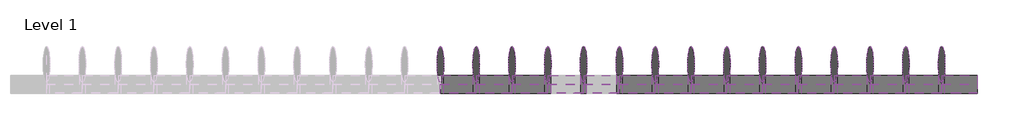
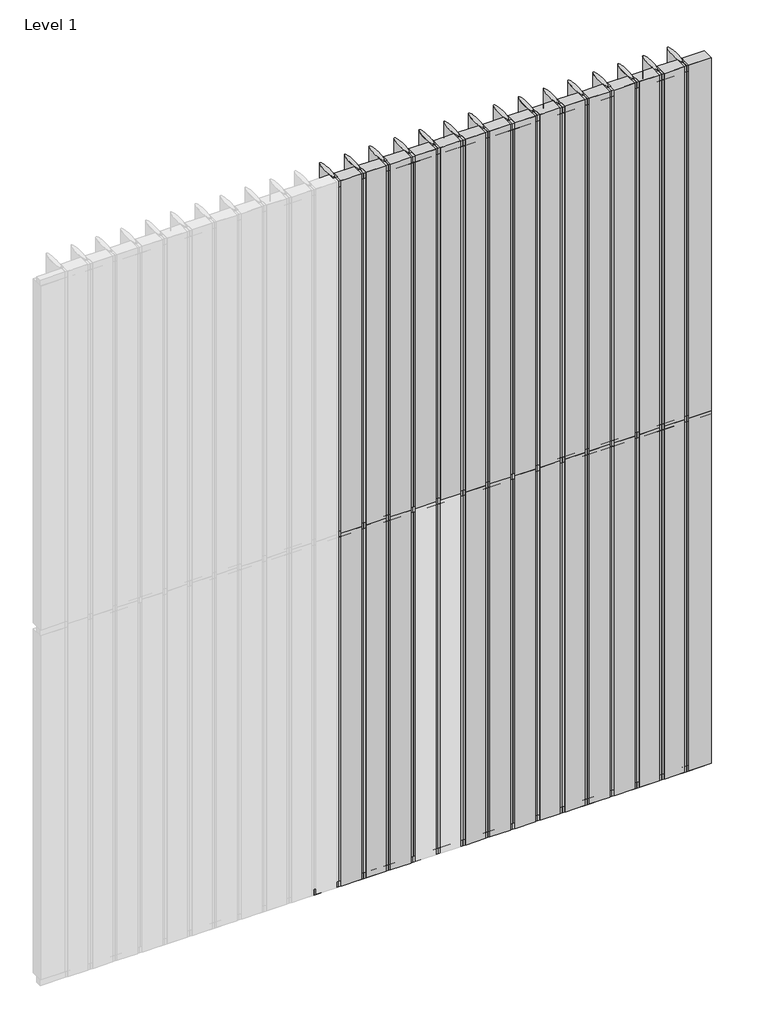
# One storey, part 2 of 2: 76 members, 58 plates.
"""IFC4 building model written with IfcOpenShell, lengths in millimetres."""

from ifc_helpers import new_model, si_unit, origin, place, context, project, spatial, transform, mapped, element, save
from components import rectangular_mullion_139a1767, rectangular_mullion_614df7cf, rectangular_mullion_a06afc58, rectangular_mullion_7d91d70c, empty_system_panel_empty_c6c0e791, empty_system_panel_empty_de494967, empty_system_panel_empty_763ef950

model = new_model("IFC4")

# Units and contexts
model_context = context("Model", 3, world=origin())
ifc_project = project(units=[si_unit("LENGTHUNIT", "METRE", prefix="MILLI")], contexts=[model_context])

# Site, building, storey
site = spatial("IfcSite", under=ifc_project)
building = spatial("IfcBuilding", under=site)
storey = spatial("IfcBuildingStorey", under=building, Name="Level 1", Elevation=0.0)

# Members
placement = place(None, origin())
rectangular_mullion_shape = rectangular_mullion_139a1767(model_context)
element("IfcMember", 1, ObjectType="Rectangular Mullion : RSen_21_CWM_blade - 200 ellips - 0°_gen_duco projects", at=placement, inside=storey, context=model_context, shape_type="MappedRepresentation", body=[
    mapped(rectangular_mullion_shape, transform((5800.0, 3000.0, 0.0), x_axis=(-1.0, 0.0, 0.0), y_axis=(0.0, 1.0, 0.0), z_axis=(0.0, 0.0, -1.0))),
])
element("IfcMember", 2, ObjectType="Rectangular Mullion : RSen_21_CWM_blade - 200 ellips - 0°_gen_duco projects", at=placement, inside=storey, context=model_context, shape_type="MappedRepresentation", body=[
    mapped(rectangular_mullion_shape, transform((5600.0, 3000.0, 0.0), x_axis=(-1.0, 0.0, 0.0), y_axis=(0.0, 1.0, 0.0), z_axis=(0.0, 0.0, -1.0))),
])
element("IfcMember", 3, ObjectType="Rectangular Mullion : RSen_21_CWM_blade - 200 ellips - 0°_gen_duco projects", at=placement, inside=storey, context=model_context, shape_type="MappedRepresentation", body=[
    mapped(rectangular_mullion_shape, transform((5400.0, 3000.0, 0.0), x_axis=(-1.0, 0.0, 0.0), y_axis=(0.0, 1.0, 0.0), z_axis=(0.0, 0.0, -1.0))),
])
element("IfcMember", 4, ObjectType="Rectangular Mullion : RSen_21_CWM_blade - 200 ellips - 0°_gen_duco projects", at=placement, inside=storey, context=model_context, shape_type="MappedRepresentation", body=[
    mapped(rectangular_mullion_shape, transform((5200.0, 3000.0, 0.0), x_axis=(-1.0, 0.0, 0.0), y_axis=(0.0, 1.0, 0.0), z_axis=(0.0, 0.0, -1.0))),
])
element("IfcMember", 5, ObjectType="Rectangular Mullion : RSen_21_CWM_blade - 200 ellips - 0°_gen_duco projects", at=placement, inside=storey, context=model_context, shape_type="MappedRepresentation", body=[
    mapped(rectangular_mullion_shape, transform((5000.0, 3000.0, 0.0), x_axis=(-1.0, 0.0, 0.0), y_axis=(0.0, 1.0, 0.0), z_axis=(0.0, 0.0, -1.0))),
])
element("IfcMember", 6, ObjectType="Rectangular Mullion : RSen_21_CWM_blade - 200 ellips - 0°_gen_duco projects", at=placement, inside=storey, context=model_context, shape_type="MappedRepresentation", body=[
    mapped(rectangular_mullion_shape, transform((4800.0, 3000.0, 0.0), x_axis=(-1.0, 0.0, 0.0), y_axis=(0.0, 1.0, 0.0), z_axis=(0.0, 0.0, -1.0))),
])
element("IfcMember", 7, ObjectType="Rectangular Mullion : RSen_21_CWM_blade - 200 ellips - 0°_gen_duco projects", at=placement, inside=storey, context=model_context, shape_type="MappedRepresentation", body=[
    mapped(rectangular_mullion_shape, transform((4600.0, 3000.0, 0.0), x_axis=(-1.0, 0.0, 0.0), y_axis=(0.0, 1.0, 0.0), z_axis=(0.0, 0.0, -1.0))),
])
element("IfcMember", 8, ObjectType="Rectangular Mullion : RSen_21_CWM_blade - 200 ellips - 0°_gen_duco projects", at=placement, inside=storey, context=model_context, shape_type="MappedRepresentation", body=[
    mapped(rectangular_mullion_shape, transform((4400.0, 3000.0, 0.0), x_axis=(-1.0, 0.0, 0.0), y_axis=(0.0, 1.0, 0.0), z_axis=(0.0, 0.0, -1.0))),
])
element("IfcMember", 9, ObjectType="Rectangular Mullion : RSen_21_CWM_blade - 200 ellips - 0°_gen_duco projects", at=placement, inside=storey, context=model_context, shape_type="MappedRepresentation", body=[
    mapped(rectangular_mullion_shape, transform((4200.0, 3000.0, 0.0), x_axis=(-1.0, 0.0, 0.0), y_axis=(0.0, 1.0, 0.0), z_axis=(0.0, 0.0, -1.0))),
])
element("IfcMember", 10, ObjectType="Rectangular Mullion : RSen_21_CWM_blade - 200 ellips - 0°_gen_duco projects", at=placement, inside=storey, context=model_context, shape_type="MappedRepresentation", body=[
    mapped(rectangular_mullion_shape, transform((4000.0, 3000.0, 0.0), x_axis=(-1.0, 0.0, 0.0), y_axis=(0.0, 1.0, 0.0), z_axis=(0.0, 0.0, -1.0))),
])
element("IfcMember", 11, ObjectType="Rectangular Mullion : RSen_21_CWM_blade - 200 ellips - 0°_gen_duco projects", at=placement, inside=storey, context=model_context, shape_type="MappedRepresentation", body=[
    mapped(rectangular_mullion_shape, transform((3800.0, 3000.0, 0.0), x_axis=(-1.0, 0.0, 0.0), y_axis=(0.0, 1.0, 0.0), z_axis=(0.0, 0.0, -1.0))),
])
element("IfcMember", 12, ObjectType="Rectangular Mullion : RSen_21_CWM_blade - 200 ellips - 0°_gen_duco projects", at=placement, inside=storey, context=model_context, shape_type="MappedRepresentation", body=[
    mapped(rectangular_mullion_shape, transform((3600.0, 3000.0, 0.0), x_axis=(-1.0, 0.0, 0.0), y_axis=(0.0, 1.0, 0.0), z_axis=(0.0, 0.0, -1.0))),
])
element("IfcMember", 13, ObjectType="Rectangular Mullion : RSen_21_CWM_blade - 200 ellips - 0°_gen_duco projects", at=placement, inside=storey, context=model_context, shape_type="MappedRepresentation", body=[
    mapped(rectangular_mullion_shape, transform((3400.0, 3000.0, 0.0), x_axis=(-1.0, 0.0, 0.0), y_axis=(0.0, 1.0, 0.0), z_axis=(0.0, 0.0, -1.0))),
])
element("IfcMember", 14, ObjectType="Rectangular Mullion : RSen_21_CWM_blade - 200 ellips - 0°_gen_duco projects", at=placement, inside=storey, context=model_context, shape_type="MappedRepresentation", body=[
    mapped(rectangular_mullion_shape, transform((3200.0, 3000.0, 0.0), x_axis=(-1.0, 0.0, 0.0), y_axis=(0.0, 1.0, 0.0), z_axis=(0.0, 0.0, -1.0))),
])
element("IfcMember", 15, ObjectType="Rectangular Mullion : RSen_21_CWM_blade - 200 ellips - 0°_gen_duco projects", at=placement, inside=storey, context=model_context, shape_type="MappedRepresentation", body=[
    mapped(rectangular_mullion_shape, transform((3000.0, 3000.0, 0.0), x_axis=(-1.0, 0.0, 0.0), y_axis=(0.0, 1.0, 0.0), z_axis=(0.0, 0.0, -1.0))),
])
element("IfcMember", 16, ObjectType="Rectangular Mullion : RSen_21_CWM_blade - 200 ellips - 0°_gen_duco projects", at=placement, inside=storey, context=model_context, shape_type="MappedRepresentation", body=[
    mapped(rectangular_mullion_shape, transform((5800.0, 3000.0, 3000.0), x_axis=(-1.0, 0.0, 0.0), y_axis=(0.0, 1.0, 0.0), z_axis=(0.0, 0.0, -1.0))),
])
element("IfcMember", 17, ObjectType="Rectangular Mullion : RSen_21_CWM_blade - 200 ellips - 0°_gen_duco projects", at=placement, inside=storey, context=model_context, shape_type="MappedRepresentation", body=[
    mapped(rectangular_mullion_shape, transform((5600.0, 3000.0, 3000.0), x_axis=(-1.0, 0.0, 0.0), y_axis=(0.0, 1.0, 0.0), z_axis=(0.0, 0.0, -1.0))),
])
element("IfcMember", 18, ObjectType="Rectangular Mullion : RSen_21_CWM_blade - 200 ellips - 0°_gen_duco projects", at=placement, inside=storey, context=model_context, shape_type="MappedRepresentation", body=[
    mapped(rectangular_mullion_shape, transform((5400.0, 3000.0, 3000.0), x_axis=(-1.0, 0.0, 0.0), y_axis=(0.0, 1.0, 0.0), z_axis=(0.0, 0.0, -1.0))),
])
element("IfcMember", 19, ObjectType="Rectangular Mullion : RSen_21_CWM_blade - 200 ellips - 0°_gen_duco projects", at=placement, inside=storey, context=model_context, shape_type="MappedRepresentation", body=[
    mapped(rectangular_mullion_shape, transform((5200.0, 3000.0, 3000.0), x_axis=(-1.0, 0.0, 0.0), y_axis=(0.0, 1.0, 0.0), z_axis=(0.0, 0.0, -1.0))),
])
element("IfcMember", 20, ObjectType="Rectangular Mullion : RSen_21_CWM_blade - 200 ellips - 0°_gen_duco projects", at=placement, inside=storey, context=model_context, shape_type="MappedRepresentation", body=[
    mapped(rectangular_mullion_shape, transform((5000.0, 3000.0, 3000.0), x_axis=(-1.0, 0.0, 0.0), y_axis=(0.0, 1.0, 0.0), z_axis=(0.0, 0.0, -1.0))),
])
element("IfcMember", 21, ObjectType="Rectangular Mullion : RSen_21_CWM_blade - 200 ellips - 0°_gen_duco projects", at=placement, inside=storey, context=model_context, shape_type="MappedRepresentation", body=[
    mapped(rectangular_mullion_shape, transform((4800.0, 3000.0, 3000.0), x_axis=(-1.0, 0.0, 0.0), y_axis=(0.0, 1.0, 0.0), z_axis=(0.0, 0.0, -1.0))),
])
element("IfcMember", 22, ObjectType="Rectangular Mullion : RSen_21_CWM_blade - 200 ellips - 0°_gen_duco projects", at=placement, inside=storey, context=model_context, shape_type="MappedRepresentation", body=[
    mapped(rectangular_mullion_shape, transform((4600.0, 3000.0, 3000.0), x_axis=(-1.0, 0.0, 0.0), y_axis=(0.0, 1.0, 0.0), z_axis=(0.0, 0.0, -1.0))),
])
element("IfcMember", 23, ObjectType="Rectangular Mullion : RSen_21_CWM_blade - 200 ellips - 0°_gen_duco projects", at=placement, inside=storey, context=model_context, shape_type="MappedRepresentation", body=[
    mapped(rectangular_mullion_shape, transform((4400.0, 3000.0, 3000.0), x_axis=(-1.0, 0.0, 0.0), y_axis=(0.0, 1.0, 0.0), z_axis=(0.0, 0.0, -1.0))),
])
element("IfcMember", 24, ObjectType="Rectangular Mullion : RSen_21_CWM_blade - 200 ellips - 0°_gen_duco projects", at=placement, inside=storey, context=model_context, shape_type="MappedRepresentation", body=[
    mapped(rectangular_mullion_shape, transform((4200.0, 3000.0, 3000.0), x_axis=(-1.0, 0.0, 0.0), y_axis=(0.0, 1.0, 0.0), z_axis=(0.0, 0.0, -1.0))),
])
element("IfcMember", 25, ObjectType="Rectangular Mullion : RSen_21_CWM_blade - 200 ellips - 0°_gen_duco projects", at=placement, inside=storey, context=model_context, shape_type="MappedRepresentation", body=[
    mapped(rectangular_mullion_shape, transform((4000.0, 3000.0, 3000.0), x_axis=(-1.0, 0.0, 0.0), y_axis=(0.0, 1.0, 0.0), z_axis=(0.0, 0.0, -1.0))),
])
element("IfcMember", 26, ObjectType="Rectangular Mullion : RSen_21_CWM_blade - 200 ellips - 0°_gen_duco projects", at=placement, inside=storey, context=model_context, shape_type="MappedRepresentation", body=[
    mapped(rectangular_mullion_shape, transform((3800.0, 3000.0, 3000.0), x_axis=(-1.0, 0.0, 0.0), y_axis=(0.0, 1.0, 0.0), z_axis=(0.0, 0.0, -1.0))),
])
element("IfcMember", 27, ObjectType="Rectangular Mullion : RSen_21_CWM_blade - 200 ellips - 0°_gen_duco projects", at=placement, inside=storey, context=model_context, shape_type="MappedRepresentation", body=[
    mapped(rectangular_mullion_shape, transform((3600.0, 3000.0, 3000.0), x_axis=(-1.0, 0.0, 0.0), y_axis=(0.0, 1.0, 0.0), z_axis=(0.0, 0.0, -1.0))),
])
element("IfcMember", 28, ObjectType="Rectangular Mullion : RSen_21_CWM_blade - 200 ellips - 0°_gen_duco projects", at=placement, inside=storey, context=model_context, shape_type="MappedRepresentation", body=[
    mapped(rectangular_mullion_shape, transform((3400.0, 3000.0, 3000.0), x_axis=(-1.0, 0.0, 0.0), y_axis=(0.0, 1.0, 0.0), z_axis=(0.0, 0.0, -1.0))),
])
element("IfcMember", 29, ObjectType="Rectangular Mullion : RSen_21_CWM_blade - 200 ellips - 0°_gen_duco projects", at=placement, inside=storey, context=model_context, shape_type="MappedRepresentation", body=[
    mapped(rectangular_mullion_shape, transform((3200.0, 3000.0, 3000.0), x_axis=(-1.0, 0.0, 0.0), y_axis=(0.0, 1.0, 0.0), z_axis=(0.0, 0.0, -1.0))),
])
element("IfcMember", 30, ObjectType="Rectangular Mullion : RSen_21_CWM_blade - 200 ellips - 0°_gen_duco projects", at=placement, inside=storey, context=model_context, shape_type="MappedRepresentation", body=[
    mapped(rectangular_mullion_shape, transform((3000.0, 3000.0, 3000.0), x_axis=(-1.0, 0.0, 0.0), y_axis=(0.0, 1.0, 0.0), z_axis=(0.0, 0.0, -1.0))),
])
rectangular_mullion_2_shape = rectangular_mullion_614df7cf(model_context)
element("IfcMember", 31, ObjectType="Rectangular Mullion : RSen_21_CWM_support profile 50x50 - right_gen_duco projects", at=placement, inside=storey, context=model_context, shape_type="MappedRepresentation", body=[
    mapped(rectangular_mullion_2_shape, transform((6000.0, 3000.0, 0.0), x_axis=(0.0, 0.0, -1.0), y_axis=(0.0, 1.0, 0.0), z_axis=(1.0, 0.0, 0.0))),
])
rectangular_mullion_3_shape = rectangular_mullion_a06afc58(model_context)
element("IfcMember", 32, ObjectType="Rectangular Mullion : RSen_21_CWM_support profile 50x50 - left_gen_duco projects", at=placement, inside=storey, context=model_context, shape_type="MappedRepresentation", body=[
    mapped(rectangular_mullion_3_shape, transform((5800.0, 3000.0, 6000.0), x_axis=(0.0, 0.0, 1.0), y_axis=(0.0, 1.0, 0.0), z_axis=(-1.0, 0.0, 0.0))),
])
element("IfcMember", 33, ObjectType="Rectangular Mullion : RSen_21_CWM_support profile 50x50 - left_gen_duco projects", at=placement, inside=storey, context=model_context, shape_type="MappedRepresentation", body=[
    mapped(rectangular_mullion_3_shape, transform((5600.0, 3000.0, 6000.0), x_axis=(0.0, 0.0, 1.0), y_axis=(0.0, 1.0, 0.0), z_axis=(-1.0, 0.0, 0.0))),
])
element("IfcMember", 34, ObjectType="Rectangular Mullion : RSen_21_CWM_support profile 50x50 - left_gen_duco projects", at=placement, inside=storey, context=model_context, shape_type="MappedRepresentation", body=[
    mapped(rectangular_mullion_3_shape, transform((5400.0, 3000.0, 6000.0), x_axis=(0.0, 0.0, 1.0), y_axis=(0.0, 1.0, 0.0), z_axis=(-1.0, 0.0, 0.0))),
])
element("IfcMember", 35, ObjectType="Rectangular Mullion : RSen_21_CWM_support profile 50x50 - left_gen_duco projects", at=placement, inside=storey, context=model_context, shape_type="MappedRepresentation", body=[
    mapped(rectangular_mullion_3_shape, transform((5200.0, 3000.0, 6000.0), x_axis=(0.0, 0.0, 1.0), y_axis=(0.0, 1.0, 0.0), z_axis=(-1.0, 0.0, 0.0))),
])
element("IfcMember", 36, ObjectType="Rectangular Mullion : RSen_21_CWM_support profile 50x50 - left_gen_duco projects", at=placement, inside=storey, context=model_context, shape_type="MappedRepresentation", body=[
    mapped(rectangular_mullion_3_shape, transform((5000.0, 3000.0, 6000.0), x_axis=(0.0, 0.0, 1.0), y_axis=(0.0, 1.0, 0.0), z_axis=(-1.0, 0.0, 0.0))),
])
element("IfcMember", 37, ObjectType="Rectangular Mullion : RSen_21_CWM_support profile 50x50 - left_gen_duco projects", at=placement, inside=storey, context=model_context, shape_type="MappedRepresentation", body=[
    mapped(rectangular_mullion_3_shape, transform((4800.0, 3000.0, 6000.0), x_axis=(0.0, 0.0, 1.0), y_axis=(0.0, 1.0, 0.0), z_axis=(-1.0, 0.0, 0.0))),
])
element("IfcMember", 38, ObjectType="Rectangular Mullion : RSen_21_CWM_support profile 50x50 - left_gen_duco projects", at=placement, inside=storey, context=model_context, shape_type="MappedRepresentation", body=[
    mapped(rectangular_mullion_3_shape, transform((4600.0, 3000.0, 6000.0), x_axis=(0.0, 0.0, 1.0), y_axis=(0.0, 1.0, 0.0), z_axis=(-1.0, 0.0, 0.0))),
])
element("IfcMember", 39, ObjectType="Rectangular Mullion : RSen_21_CWM_support profile 50x50 - left_gen_duco projects", at=placement, inside=storey, context=model_context, shape_type="MappedRepresentation", body=[
    mapped(rectangular_mullion_3_shape, transform((4400.0, 3000.0, 6000.0), x_axis=(0.0, 0.0, 1.0), y_axis=(0.0, 1.0, 0.0), z_axis=(-1.0, 0.0, 0.0))),
])
element("IfcMember", 40, ObjectType="Rectangular Mullion : RSen_21_CWM_support profile 50x50 - left_gen_duco projects", at=placement, inside=storey, context=model_context, shape_type="MappedRepresentation", body=[
    mapped(rectangular_mullion_3_shape, transform((4200.0, 3000.0, 6000.0), x_axis=(0.0, 0.0, 1.0), y_axis=(0.0, 1.0, 0.0), z_axis=(-1.0, 0.0, 0.0))),
])
element("IfcMember", 41, ObjectType="Rectangular Mullion : RSen_21_CWM_support profile 50x50 - left_gen_duco projects", at=placement, inside=storey, context=model_context, shape_type="MappedRepresentation", body=[
    mapped(rectangular_mullion_3_shape, transform((4000.0, 3000.0, 6000.0), x_axis=(0.0, 0.0, 1.0), y_axis=(0.0, 1.0, 0.0), z_axis=(-1.0, 0.0, 0.0))),
])
element("IfcMember", 42, ObjectType="Rectangular Mullion : RSen_21_CWM_support profile 50x50 - left_gen_duco projects", at=placement, inside=storey, context=model_context, shape_type="MappedRepresentation", body=[
    mapped(rectangular_mullion_3_shape, transform((3800.0, 3000.0, 6000.0), x_axis=(0.0, 0.0, 1.0), y_axis=(0.0, 1.0, 0.0), z_axis=(-1.0, 0.0, 0.0))),
])
element("IfcMember", 43, ObjectType="Rectangular Mullion : RSen_21_CWM_support profile 50x50 - left_gen_duco projects", at=placement, inside=storey, context=model_context, shape_type="MappedRepresentation", body=[
    mapped(rectangular_mullion_3_shape, transform((3600.0, 3000.0, 6000.0), x_axis=(0.0, 0.0, 1.0), y_axis=(0.0, 1.0, 0.0), z_axis=(-1.0, 0.0, 0.0))),
])
element("IfcMember", 44, ObjectType="Rectangular Mullion : RSen_21_CWM_support profile 50x50 - left_gen_duco projects", at=placement, inside=storey, context=model_context, shape_type="MappedRepresentation", body=[
    mapped(rectangular_mullion_3_shape, transform((3400.0, 3000.0, 6000.0), x_axis=(0.0, 0.0, 1.0), y_axis=(0.0, 1.0, 0.0), z_axis=(-1.0, 0.0, 0.0))),
])
element("IfcMember", 45, ObjectType="Rectangular Mullion : RSen_21_CWM_support profile 50x50 - left_gen_duco projects", at=placement, inside=storey, context=model_context, shape_type="MappedRepresentation", body=[
    mapped(rectangular_mullion_3_shape, transform((3200.0, 3000.0, 6000.0), x_axis=(0.0, 0.0, 1.0), y_axis=(0.0, 1.0, 0.0), z_axis=(-1.0, 0.0, 0.0))),
])
element("IfcMember", 46, ObjectType="Rectangular Mullion : RSen_21_CWM_support profile 50x50 - left_gen_duco projects", at=placement, inside=storey, context=model_context, shape_type="MappedRepresentation", body=[
    mapped(rectangular_mullion_3_shape, transform((3000.0, 3000.0, 6000.0), x_axis=(0.0, 0.0, 1.0), y_axis=(0.0, 1.0, 0.0), z_axis=(-1.0, 0.0, 0.0))),
])
element("IfcMember", 47, ObjectType="Rectangular Mullion : RSen_21_CWM_support profile 50x50 - right_gen_duco projects", at=placement, inside=storey, context=model_context, shape_type="MappedRepresentation", body=[
    mapped(rectangular_mullion_2_shape, transform((5800.0, 3000.0, 0.0), x_axis=(0.0, 0.0, -1.0), y_axis=(0.0, 1.0, 0.0), z_axis=(1.0, 0.0, 0.0))),
])
element("IfcMember", 48, ObjectType="Rectangular Mullion : RSen_21_CWM_support profile 50x50 - right_gen_duco projects", at=placement, inside=storey, context=model_context, shape_type="MappedRepresentation", body=[
    mapped(rectangular_mullion_2_shape, transform((5600.0, 3000.0, 0.0), x_axis=(0.0, 0.0, -1.0), y_axis=(0.0, 1.0, 0.0), z_axis=(1.0, 0.0, 0.0))),
])
element("IfcMember", 49, ObjectType="Rectangular Mullion : RSen_21_CWM_support profile 50x50 - right_gen_duco projects", at=placement, inside=storey, context=model_context, shape_type="MappedRepresentation", body=[
    mapped(rectangular_mullion_2_shape, transform((5400.0, 3000.0, 0.0), x_axis=(0.0, 0.0, -1.0), y_axis=(0.0, 1.0, 0.0), z_axis=(1.0, 0.0, 0.0))),
])
element("IfcMember", 50, ObjectType="Rectangular Mullion : RSen_21_CWM_support profile 50x50 - right_gen_duco projects", at=placement, inside=storey, context=model_context, shape_type="MappedRepresentation", body=[
    mapped(rectangular_mullion_2_shape, transform((5200.0, 3000.0, 0.0), x_axis=(0.0, 0.0, -1.0), y_axis=(0.0, 1.0, 0.0), z_axis=(1.0, 0.0, 0.0))),
])
element("IfcMember", 51, ObjectType="Rectangular Mullion : RSen_21_CWM_support profile 50x50 - right_gen_duco projects", at=placement, inside=storey, context=model_context, shape_type="MappedRepresentation", body=[
    mapped(rectangular_mullion_2_shape, transform((5000.0, 3000.0, 0.0), x_axis=(0.0, 0.0, -1.0), y_axis=(0.0, 1.0, 0.0), z_axis=(1.0, 0.0, 0.0))),
])
element("IfcMember", 52, ObjectType="Rectangular Mullion : RSen_21_CWM_support profile 50x50 - right_gen_duco projects", at=placement, inside=storey, context=model_context, shape_type="MappedRepresentation", body=[
    mapped(rectangular_mullion_2_shape, transform((4800.0, 3000.0, 0.0), x_axis=(0.0, 0.0, -1.0), y_axis=(0.0, 1.0, 0.0), z_axis=(1.0, 0.0, 0.0))),
])
element("IfcMember", 53, ObjectType="Rectangular Mullion : RSen_21_CWM_support profile 50x50 - right_gen_duco projects", at=placement, inside=storey, context=model_context, shape_type="MappedRepresentation", body=[
    mapped(rectangular_mullion_2_shape, transform((4600.0, 3000.0, 0.0), x_axis=(0.0, 0.0, -1.0), y_axis=(0.0, 1.0, 0.0), z_axis=(1.0, 0.0, 0.0))),
])
element("IfcMember", 54, ObjectType="Rectangular Mullion : RSen_21_CWM_support profile 50x50 - right_gen_duco projects", at=placement, inside=storey, context=model_context, shape_type="MappedRepresentation", body=[
    mapped(rectangular_mullion_2_shape, transform((4400.0, 3000.0, 0.0), x_axis=(0.0, 0.0, -1.0), y_axis=(0.0, 1.0, 0.0), z_axis=(1.0, 0.0, 0.0))),
])
element("IfcMember", 55, ObjectType="Rectangular Mullion : RSen_21_CWM_support profile 50x50 - right_gen_duco projects", at=placement, inside=storey, context=model_context, shape_type="MappedRepresentation", body=[
    mapped(rectangular_mullion_2_shape, transform((4200.0, 3000.0, 0.0), x_axis=(0.0, 0.0, -1.0), y_axis=(0.0, 1.0, 0.0), z_axis=(1.0, 0.0, 0.0))),
])
element("IfcMember", 56, ObjectType="Rectangular Mullion : RSen_21_CWM_support profile 50x50 - right_gen_duco projects", at=placement, inside=storey, context=model_context, shape_type="MappedRepresentation", body=[
    mapped(rectangular_mullion_2_shape, transform((4000.0, 3000.0, 0.0), x_axis=(0.0, 0.0, -1.0), y_axis=(0.0, 1.0, 0.0), z_axis=(1.0, 0.0, 0.0))),
])
element("IfcMember", 57, ObjectType="Rectangular Mullion : RSen_21_CWM_support profile 50x50 - right_gen_duco projects", at=placement, inside=storey, context=model_context, shape_type="MappedRepresentation", body=[
    mapped(rectangular_mullion_2_shape, transform((3800.0, 3000.0, 0.0), x_axis=(0.0, 0.0, -1.0), y_axis=(0.0, 1.0, 0.0), z_axis=(1.0, 0.0, 0.0))),
])
element("IfcMember", 58, ObjectType="Rectangular Mullion : RSen_21_CWM_support profile 50x50 - right_gen_duco projects", at=placement, inside=storey, context=model_context, shape_type="MappedRepresentation", body=[
    mapped(rectangular_mullion_2_shape, transform((3600.0, 3000.0, 0.0), x_axis=(0.0, 0.0, -1.0), y_axis=(0.0, 1.0, 0.0), z_axis=(1.0, 0.0, 0.0))),
])
element("IfcMember", 59, ObjectType="Rectangular Mullion : RSen_21_CWM_support profile 50x50 - right_gen_duco projects", at=placement, inside=storey, context=model_context, shape_type="MappedRepresentation", body=[
    mapped(rectangular_mullion_2_shape, transform((3400.0, 3000.0, 0.0), x_axis=(0.0, 0.0, -1.0), y_axis=(0.0, 1.0, 0.0), z_axis=(1.0, 0.0, 0.0))),
])
element("IfcMember", 60, ObjectType="Rectangular Mullion : RSen_21_CWM_support profile 50x50 - right_gen_duco projects", at=placement, inside=storey, context=model_context, shape_type="MappedRepresentation", body=[
    mapped(rectangular_mullion_2_shape, transform((3200.0, 3000.0, 0.0), x_axis=(0.0, 0.0, -1.0), y_axis=(0.0, 1.0, 0.0), z_axis=(1.0, 0.0, 0.0))),
])
element("IfcMember", 61, ObjectType="Rectangular Mullion : RSen_21_CWM_support profile 50x50 - right_gen_duco projects", at=placement, inside=storey, context=model_context, shape_type="MappedRepresentation", body=[
    mapped(rectangular_mullion_2_shape, transform((3000.0, 3000.0, 0.0), x_axis=(0.0, 0.0, -1.0), y_axis=(0.0, 1.0, 0.0), z_axis=(1.0, 0.0, 0.0))),
])
rectangular_mullion_4_shape = rectangular_mullion_7d91d70c(model_context)
element("IfcMember", 62, ObjectType="Rectangular Mullion : RSen_21_CWM_support profile 50x50_gen_duco projects", at=placement, inside=storey, context=model_context, shape_type="MappedRepresentation", body=[
    mapped(rectangular_mullion_4_shape, transform((5800.0, 3000.0, 3000.0), x_axis=(0.0, 0.0, 1.0), y_axis=(0.0, 1.0, 0.0), z_axis=(-1.0, 0.0, 0.0))),
])
element("IfcMember", 63, ObjectType="Rectangular Mullion : RSen_21_CWM_support profile 50x50_gen_duco projects", at=placement, inside=storey, context=model_context, shape_type="MappedRepresentation", body=[
    mapped(rectangular_mullion_4_shape, transform((5600.0, 3000.0, 3000.0), x_axis=(0.0, 0.0, 1.0), y_axis=(0.0, 1.0, 0.0), z_axis=(-1.0, 0.0, 0.0))),
])
element("IfcMember", 64, ObjectType="Rectangular Mullion : RSen_21_CWM_support profile 50x50_gen_duco projects", at=placement, inside=storey, context=model_context, shape_type="MappedRepresentation", body=[
    mapped(rectangular_mullion_4_shape, transform((5400.0, 3000.0, 3000.0), x_axis=(0.0, 0.0, 1.0), y_axis=(0.0, 1.0, 0.0), z_axis=(-1.0, 0.0, 0.0))),
])
element("IfcMember", 65, ObjectType="Rectangular Mullion : RSen_21_CWM_support profile 50x50_gen_duco projects", at=placement, inside=storey, context=model_context, shape_type="MappedRepresentation", body=[
    mapped(rectangular_mullion_4_shape, transform((5200.0, 3000.0, 3000.0), x_axis=(0.0, 0.0, 1.0), y_axis=(0.0, 1.0, 0.0), z_axis=(-1.0, 0.0, 0.0))),
])
element("IfcMember", 66, ObjectType="Rectangular Mullion : RSen_21_CWM_support profile 50x50_gen_duco projects", at=placement, inside=storey, context=model_context, shape_type="MappedRepresentation", body=[
    mapped(rectangular_mullion_4_shape, transform((5000.0, 3000.0, 3000.0), x_axis=(0.0, 0.0, 1.0), y_axis=(0.0, 1.0, 0.0), z_axis=(-1.0, 0.0, 0.0))),
])
element("IfcMember", 67, ObjectType="Rectangular Mullion : RSen_21_CWM_support profile 50x50_gen_duco projects", at=placement, inside=storey, context=model_context, shape_type="MappedRepresentation", body=[
    mapped(rectangular_mullion_4_shape, transform((4800.0, 3000.0, 3000.0), x_axis=(0.0, 0.0, 1.0), y_axis=(0.0, 1.0, 0.0), z_axis=(-1.0, 0.0, 0.0))),
])
element("IfcMember", 68, ObjectType="Rectangular Mullion : RSen_21_CWM_support profile 50x50_gen_duco projects", at=placement, inside=storey, context=model_context, shape_type="MappedRepresentation", body=[
    mapped(rectangular_mullion_4_shape, transform((4600.0, 3000.0, 3000.0), x_axis=(0.0, 0.0, 1.0), y_axis=(0.0, 1.0, 0.0), z_axis=(-1.0, 0.0, 0.0))),
])
element("IfcMember", 69, ObjectType="Rectangular Mullion : RSen_21_CWM_support profile 50x50_gen_duco projects", at=placement, inside=storey, context=model_context, shape_type="MappedRepresentation", body=[
    mapped(rectangular_mullion_4_shape, transform((4400.0, 3000.0, 3000.0), x_axis=(0.0, 0.0, 1.0), y_axis=(0.0, 1.0, 0.0), z_axis=(-1.0, 0.0, 0.0))),
])
element("IfcMember", 70, ObjectType="Rectangular Mullion : RSen_21_CWM_support profile 50x50_gen_duco projects", at=placement, inside=storey, context=model_context, shape_type="MappedRepresentation", body=[
    mapped(rectangular_mullion_4_shape, transform((4200.0, 3000.0, 3000.0), x_axis=(0.0, 0.0, 1.0), y_axis=(0.0, 1.0, 0.0), z_axis=(-1.0, 0.0, 0.0))),
])
element("IfcMember", 71, ObjectType="Rectangular Mullion : RSen_21_CWM_support profile 50x50_gen_duco projects", at=placement, inside=storey, context=model_context, shape_type="MappedRepresentation", body=[
    mapped(rectangular_mullion_4_shape, transform((4000.0, 3000.0, 3000.0), x_axis=(0.0, 0.0, 1.0), y_axis=(0.0, 1.0, 0.0), z_axis=(-1.0, 0.0, 0.0))),
])
element("IfcMember", 72, ObjectType="Rectangular Mullion : RSen_21_CWM_support profile 50x50_gen_duco projects", at=placement, inside=storey, context=model_context, shape_type="MappedRepresentation", body=[
    mapped(rectangular_mullion_4_shape, transform((3800.0, 3000.0, 3000.0), x_axis=(0.0, 0.0, 1.0), y_axis=(0.0, 1.0, 0.0), z_axis=(-1.0, 0.0, 0.0))),
])
element("IfcMember", 73, ObjectType="Rectangular Mullion : RSen_21_CWM_support profile 50x50_gen_duco projects", at=placement, inside=storey, context=model_context, shape_type="MappedRepresentation", body=[
    mapped(rectangular_mullion_4_shape, transform((3600.0, 3000.0, 3000.0), x_axis=(0.0, 0.0, 1.0), y_axis=(0.0, 1.0, 0.0), z_axis=(-1.0, 0.0, 0.0))),
])
element("IfcMember", 74, ObjectType="Rectangular Mullion : RSen_21_CWM_support profile 50x50_gen_duco projects", at=placement, inside=storey, context=model_context, shape_type="MappedRepresentation", body=[
    mapped(rectangular_mullion_4_shape, transform((3400.0, 3000.0, 3000.0), x_axis=(0.0, 0.0, 1.0), y_axis=(0.0, 1.0, 0.0), z_axis=(-1.0, 0.0, 0.0))),
])
element("IfcMember", 75, ObjectType="Rectangular Mullion : RSen_21_CWM_support profile 50x50_gen_duco projects", at=placement, inside=storey, context=model_context, shape_type="MappedRepresentation", body=[
    mapped(rectangular_mullion_4_shape, transform((3200.0, 3000.0, 3000.0), x_axis=(0.0, 0.0, 1.0), y_axis=(0.0, 1.0, 0.0), z_axis=(-1.0, 0.0, 0.0))),
])
element("IfcMember", 76, ObjectType="Rectangular Mullion : RSen_21_CWM_support profile 50x50_gen_duco projects", at=placement, inside=storey, context=model_context, shape_type="MappedRepresentation", body=[
    mapped(rectangular_mullion_4_shape, transform((3000.0, 3000.0, 3000.0), x_axis=(0.0, 0.0, 1.0), y_axis=(0.0, 1.0, 0.0), z_axis=(-1.0, 0.0, 0.0))),
])

# Plates
empty_system_panel_empty_shape = empty_system_panel_empty_c6c0e791(model_context)
element("IfcPlate", 77, ObjectType="Empty System Panel : Empty", at=placement, inside=storey, context=model_context, shape_type="MappedRepresentation", body=[
    mapped(empty_system_panel_empty_shape, transform((5909.25, 3000.0, 0.0), x_axis=(-1.0, 0.0, 0.0), y_axis=(0.0, -1.0, 0.0), z_axis=(0.0, 0.0, 1.0))),
])
element("IfcPlate", 78, ObjectType="Empty System Panel : Empty", at=placement, inside=storey, context=model_context, shape_type="MappedRepresentation", body=[
    mapped(empty_system_panel_empty_shape, transform((5909.25, 3000.0, 3000.0), x_axis=(-1.0, 0.0, 0.0), y_axis=(0.0, -1.0, 0.0), z_axis=(0.0, 0.0, 1.0))),
])
empty_system_panel_empty_2_shape = empty_system_panel_empty_de494967(model_context)
element("IfcPlate", 79, ObjectType="Empty System Panel : Empty", at=placement, inside=storey, context=model_context, shape_type="MappedRepresentation", body=[
    mapped(empty_system_panel_empty_2_shape, transform((5700.0, 3000.0, 0.0), x_axis=(-1.0, 0.0, 0.0), y_axis=(0.0, -1.0, 0.0), z_axis=(0.0, 0.0, 1.0))),
])
element("IfcPlate", 80, ObjectType="Empty System Panel : Empty", at=placement, inside=storey, context=model_context, shape_type="MappedRepresentation", body=[
    mapped(empty_system_panel_empty_2_shape, transform((5500.0, 3000.0, 0.0), x_axis=(-1.0, 0.0, 0.0), y_axis=(0.0, -1.0, 0.0), z_axis=(0.0, 0.0, 1.0))),
])
element("IfcPlate", 81, ObjectType="Empty System Panel : Empty", at=placement, inside=storey, context=model_context, shape_type="MappedRepresentation", body=[
    mapped(empty_system_panel_empty_2_shape, transform((5300.0, 3000.0, 0.0), x_axis=(-1.0, 0.0, 0.0), y_axis=(0.0, -1.0, 0.0), z_axis=(0.0, 0.0, 1.0))),
])
element("IfcPlate", 82, ObjectType="Empty System Panel : Empty", at=placement, inside=storey, context=model_context, shape_type="MappedRepresentation", body=[
    mapped(empty_system_panel_empty_2_shape, transform((5100.0, 3000.0, 0.0), x_axis=(-1.0, 0.0, 0.0), y_axis=(0.0, -1.0, 0.0), z_axis=(0.0, 0.0, 1.0))),
])
element("IfcPlate", 83, ObjectType="Empty System Panel : Empty", at=placement, inside=storey, context=model_context, shape_type="MappedRepresentation", body=[
    mapped(empty_system_panel_empty_2_shape, transform((4900.0, 3000.0, 0.0), x_axis=(-1.0, 0.0, 0.0), y_axis=(0.0, -1.0, 0.0), z_axis=(0.0, 0.0, 1.0))),
])
element("IfcPlate", 84, ObjectType="Empty System Panel : Empty", at=placement, inside=storey, context=model_context, shape_type="MappedRepresentation", body=[
    mapped(empty_system_panel_empty_2_shape, transform((4700.0, 3000.0, 0.0), x_axis=(-1.0, 0.0, 0.0), y_axis=(0.0, -1.0, 0.0), z_axis=(0.0, 0.0, 1.0))),
])
element("IfcPlate", 85, ObjectType="Empty System Panel : Empty", at=placement, inside=storey, context=model_context, shape_type="MappedRepresentation", body=[
    mapped(empty_system_panel_empty_2_shape, transform((4500.0, 3000.0, 0.0), x_axis=(-1.0, 0.0, 0.0), y_axis=(0.0, -1.0, 0.0), z_axis=(0.0, 0.0, 1.0))),
])
element("IfcPlate", 86, ObjectType="Empty System Panel : Empty", at=placement, inside=storey, context=model_context, shape_type="MappedRepresentation", body=[
    mapped(empty_system_panel_empty_2_shape, transform((4300.0, 3000.0, 0.0), x_axis=(-1.0, 0.0, 0.0), y_axis=(0.0, -1.0, 0.0), z_axis=(0.0, 0.0, 1.0))),
])
element("IfcPlate", 87, ObjectType="Empty System Panel : Empty", at=placement, inside=storey, context=model_context, shape_type="MappedRepresentation", body=[
    mapped(empty_system_panel_empty_2_shape, transform((4100.0, 3000.0, 0.0), x_axis=(-1.0, 0.0, 0.0), y_axis=(0.0, -1.0, 0.0), z_axis=(0.0, 0.0, 1.0))),
])
element("IfcPlate", 88, ObjectType="Empty System Panel : Empty", at=placement, inside=storey, context=model_context, shape_type="MappedRepresentation", body=[
    mapped(empty_system_panel_empty_2_shape, transform((3500.0, 3000.0, 0.0), x_axis=(-1.0, 0.0, 0.0), y_axis=(0.0, -1.0, 0.0), z_axis=(0.0, 0.0, 1.0))),
])
element("IfcPlate", 89, ObjectType="Empty System Panel : Empty", at=placement, inside=storey, context=model_context, shape_type="MappedRepresentation", body=[
    mapped(empty_system_panel_empty_2_shape, transform((3300.0, 3000.0, 0.0), x_axis=(-1.0, 0.0, 0.0), y_axis=(0.0, -1.0, 0.0), z_axis=(0.0, 0.0, 1.0))),
])
element("IfcPlate", 90, ObjectType="Empty System Panel : Empty", at=placement, inside=storey, context=model_context, shape_type="MappedRepresentation", body=[
    mapped(empty_system_panel_empty_2_shape, transform((3100.0, 3000.0, 0.0), x_axis=(-1.0, 0.0, 0.0), y_axis=(0.0, -1.0, 0.0), z_axis=(0.0, 0.0, 1.0))),
])
element("IfcPlate", 91, ObjectType="Empty System Panel : Empty", at=placement, inside=storey, context=model_context, shape_type="MappedRepresentation", body=[
    mapped(empty_system_panel_empty_2_shape, transform((5700.0, 3000.0, 3000.0), x_axis=(-1.0, 0.0, 0.0), y_axis=(0.0, -1.0, 0.0), z_axis=(0.0, 0.0, 1.0))),
])
element("IfcPlate", 92, ObjectType="Empty System Panel : Empty", at=placement, inside=storey, context=model_context, shape_type="MappedRepresentation", body=[
    mapped(empty_system_panel_empty_2_shape, transform((5500.0, 3000.0, 3000.0), x_axis=(-1.0, 0.0, 0.0), y_axis=(0.0, -1.0, 0.0), z_axis=(0.0, 0.0, 1.0))),
])
element("IfcPlate", 93, ObjectType="Empty System Panel : Empty", at=placement, inside=storey, context=model_context, shape_type="MappedRepresentation", body=[
    mapped(empty_system_panel_empty_2_shape, transform((5300.0, 3000.0, 3000.0), x_axis=(-1.0, 0.0, 0.0), y_axis=(0.0, -1.0, 0.0), z_axis=(0.0, 0.0, 1.0))),
])
element("IfcPlate", 94, ObjectType="Empty System Panel : Empty", at=placement, inside=storey, context=model_context, shape_type="MappedRepresentation", body=[
    mapped(empty_system_panel_empty_2_shape, transform((5100.0, 3000.0, 3000.0), x_axis=(-1.0, 0.0, 0.0), y_axis=(0.0, -1.0, 0.0), z_axis=(0.0, 0.0, 1.0))),
])
element("IfcPlate", 95, ObjectType="Empty System Panel : Empty", at=placement, inside=storey, context=model_context, shape_type="MappedRepresentation", body=[
    mapped(empty_system_panel_empty_2_shape, transform((4900.0, 3000.0, 3000.0), x_axis=(-1.0, 0.0, 0.0), y_axis=(0.0, -1.0, 0.0), z_axis=(0.0, 0.0, 1.0))),
])
element("IfcPlate", 96, ObjectType="Empty System Panel : Empty", at=placement, inside=storey, context=model_context, shape_type="MappedRepresentation", body=[
    mapped(empty_system_panel_empty_2_shape, transform((4700.0, 3000.0, 3000.0), x_axis=(-1.0, 0.0, 0.0), y_axis=(0.0, -1.0, 0.0), z_axis=(0.0, 0.0, 1.0))),
])
element("IfcPlate", 97, ObjectType="Empty System Panel : Empty", at=placement, inside=storey, context=model_context, shape_type="MappedRepresentation", body=[
    mapped(empty_system_panel_empty_2_shape, transform((4500.0, 3000.0, 3000.0), x_axis=(-1.0, 0.0, 0.0), y_axis=(0.0, -1.0, 0.0), z_axis=(0.0, 0.0, 1.0))),
])
element("IfcPlate", 98, ObjectType="Empty System Panel : Empty", at=placement, inside=storey, context=model_context, shape_type="MappedRepresentation", body=[
    mapped(empty_system_panel_empty_2_shape, transform((4300.0, 3000.0, 3000.0), x_axis=(-1.0, 0.0, 0.0), y_axis=(0.0, -1.0, 0.0), z_axis=(0.0, 0.0, 1.0))),
])
element("IfcPlate", 99, ObjectType="Empty System Panel : Empty", at=placement, inside=storey, context=model_context, shape_type="MappedRepresentation", body=[
    mapped(empty_system_panel_empty_2_shape, transform((4100.0, 3000.0, 3000.0), x_axis=(-1.0, 0.0, 0.0), y_axis=(0.0, -1.0, 0.0), z_axis=(0.0, 0.0, 1.0))),
])
element("IfcPlate", 100, ObjectType="Empty System Panel : Empty", at=placement, inside=storey, context=model_context, shape_type="MappedRepresentation", body=[
    mapped(empty_system_panel_empty_2_shape, transform((3900.0, 3000.0, 3000.0), x_axis=(-1.0, 0.0, 0.0), y_axis=(0.0, -1.0, 0.0), z_axis=(0.0, 0.0, 1.0))),
])
element("IfcPlate", 101, ObjectType="Empty System Panel : Empty", at=placement, inside=storey, context=model_context, shape_type="MappedRepresentation", body=[
    mapped(empty_system_panel_empty_2_shape, transform((3700.0, 3000.0, 3000.0), x_axis=(-1.0, 0.0, 0.0), y_axis=(0.0, -1.0, 0.0), z_axis=(0.0, 0.0, 1.0))),
])
element("IfcPlate", 102, ObjectType="Empty System Panel : Empty", at=placement, inside=storey, context=model_context, shape_type="MappedRepresentation", body=[
    mapped(empty_system_panel_empty_2_shape, transform((3500.0, 3000.0, 3000.0), x_axis=(-1.0, 0.0, 0.0), y_axis=(0.0, -1.0, 0.0), z_axis=(0.0, 0.0, 1.0))),
])
element("IfcPlate", 103, ObjectType="Empty System Panel : Empty", at=placement, inside=storey, context=model_context, shape_type="MappedRepresentation", body=[
    mapped(empty_system_panel_empty_2_shape, transform((3300.0, 3000.0, 3000.0), x_axis=(-1.0, 0.0, 0.0), y_axis=(0.0, -1.0, 0.0), z_axis=(0.0, 0.0, 1.0))),
])
element("IfcPlate", 104, ObjectType="Empty System Panel : Empty", at=placement, inside=storey, context=model_context, shape_type="MappedRepresentation", body=[
    mapped(empty_system_panel_empty_2_shape, transform((3100.0, 3000.0, 3000.0), x_axis=(-1.0, 0.0, 0.0), y_axis=(0.0, -1.0, 0.0), z_axis=(0.0, 0.0, 1.0))),
])
empty_system_panel_empty_3_shape = empty_system_panel_empty_763ef950(model_context)
element("IfcPlate", 105, ObjectType="Empty System Panel : Empty", at=placement, inside=storey, context=model_context, shape_type="MappedRepresentation", body=[
    mapped(empty_system_panel_empty_3_shape, transform((5900.0, 3000.0, 50.0), x_axis=(-1.0, 0.0, 0.0), y_axis=(0.0, -1.0, 0.0), z_axis=(0.0, 0.0, 1.0))),
])
element("IfcPlate", 106, ObjectType="Empty System Panel : Empty", at=placement, inside=storey, context=model_context, shape_type="MappedRepresentation", body=[
    mapped(empty_system_panel_empty_3_shape, transform((5700.0, 3000.0, 50.0), x_axis=(-1.0, 0.0, 0.0), y_axis=(0.0, -1.0, 0.0), z_axis=(0.0, 0.0, 1.0))),
])
element("IfcPlate", 107, ObjectType="Empty System Panel : Empty", at=placement, inside=storey, context=model_context, shape_type="MappedRepresentation", body=[
    mapped(empty_system_panel_empty_3_shape, transform((5500.0, 3000.0, 50.0), x_axis=(-1.0, 0.0, 0.0), y_axis=(0.0, -1.0, 0.0), z_axis=(0.0, 0.0, 1.0))),
])
element("IfcPlate", 108, ObjectType="Empty System Panel : Empty", at=placement, inside=storey, context=model_context, shape_type="MappedRepresentation", body=[
    mapped(empty_system_panel_empty_3_shape, transform((5300.0, 3000.0, 50.0), x_axis=(-1.0, 0.0, 0.0), y_axis=(0.0, -1.0, 0.0), z_axis=(0.0, 0.0, 1.0))),
])
element("IfcPlate", 109, ObjectType="Empty System Panel : Empty", at=placement, inside=storey, context=model_context, shape_type="MappedRepresentation", body=[
    mapped(empty_system_panel_empty_3_shape, transform((5100.0, 3000.0, 50.0), x_axis=(-1.0, 0.0, 0.0), y_axis=(0.0, -1.0, 0.0), z_axis=(0.0, 0.0, 1.0))),
])
element("IfcPlate", 110, ObjectType="Empty System Panel : Empty", at=placement, inside=storey, context=model_context, shape_type="MappedRepresentation", body=[
    mapped(empty_system_panel_empty_3_shape, transform((4900.0, 3000.0, 50.0), x_axis=(-1.0, 0.0, 0.0), y_axis=(0.0, -1.0, 0.0), z_axis=(0.0, 0.0, 1.0))),
])
element("IfcPlate", 111, ObjectType="Empty System Panel : Empty", at=placement, inside=storey, context=model_context, shape_type="MappedRepresentation", body=[
    mapped(empty_system_panel_empty_3_shape, transform((4700.0, 3000.0, 50.0), x_axis=(-1.0, 0.0, 0.0), y_axis=(0.0, -1.0, 0.0), z_axis=(0.0, 0.0, 1.0))),
])
element("IfcPlate", 112, ObjectType="Empty System Panel : Empty", at=placement, inside=storey, context=model_context, shape_type="MappedRepresentation", body=[
    mapped(empty_system_panel_empty_3_shape, transform((4500.0, 3000.0, 50.0), x_axis=(-1.0, 0.0, 0.0), y_axis=(0.0, -1.0, 0.0), z_axis=(0.0, 0.0, 1.0))),
])
element("IfcPlate", 113, ObjectType="Empty System Panel : Empty", at=placement, inside=storey, context=model_context, shape_type="MappedRepresentation", body=[
    mapped(empty_system_panel_empty_3_shape, transform((4300.0, 3000.0, 50.0), x_axis=(-1.0, 0.0, 0.0), y_axis=(0.0, -1.0, 0.0), z_axis=(0.0, 0.0, 1.0))),
])
element("IfcPlate", 114, ObjectType="Empty System Panel : Empty", at=placement, inside=storey, context=model_context, shape_type="MappedRepresentation", body=[
    mapped(empty_system_panel_empty_3_shape, transform((4100.0, 3000.0, 50.0), x_axis=(-1.0, 0.0, 0.0), y_axis=(0.0, -1.0, 0.0), z_axis=(0.0, 0.0, 1.0))),
])
element("IfcPlate", 115, ObjectType="Empty System Panel : Empty", at=placement, inside=storey, context=model_context, shape_type="MappedRepresentation", body=[
    mapped(empty_system_panel_empty_3_shape, transform((3900.0, 3000.0, 50.0), x_axis=(-1.0, 0.0, 0.0), y_axis=(0.0, -1.0, 0.0), z_axis=(0.0, 0.0, 1.0))),
])
element("IfcPlate", 116, ObjectType="Empty System Panel : Empty", at=placement, inside=storey, context=model_context, shape_type="MappedRepresentation", body=[
    mapped(empty_system_panel_empty_3_shape, transform((3700.0, 3000.0, 50.0), x_axis=(-1.0, 0.0, 0.0), y_axis=(0.0, -1.0, 0.0), z_axis=(0.0, 0.0, 1.0))),
])
element("IfcPlate", 117, ObjectType="Empty System Panel : Empty", at=placement, inside=storey, context=model_context, shape_type="MappedRepresentation", body=[
    mapped(empty_system_panel_empty_3_shape, transform((3500.0, 3000.0, 50.0), x_axis=(-1.0, 0.0, 0.0), y_axis=(0.0, -1.0, 0.0), z_axis=(0.0, 0.0, 1.0))),
])
element("IfcPlate", 118, ObjectType="Empty System Panel : Empty", at=placement, inside=storey, context=model_context, shape_type="MappedRepresentation", body=[
    mapped(empty_system_panel_empty_3_shape, transform((3300.0, 3000.0, 50.0), x_axis=(-1.0, 0.0, 0.0), y_axis=(0.0, -1.0, 0.0), z_axis=(0.0, 0.0, 1.0))),
])
element("IfcPlate", 119, ObjectType="Empty System Panel : Empty", at=placement, inside=storey, context=model_context, shape_type="MappedRepresentation", body=[
    mapped(empty_system_panel_empty_3_shape, transform((3100.0, 3000.0, 50.0), x_axis=(-1.0, 0.0, 0.0), y_axis=(0.0, -1.0, 0.0), z_axis=(0.0, 0.0, 1.0))),
])
element("IfcPlate", 120, ObjectType="Empty System Panel : Empty", at=placement, inside=storey, context=model_context, shape_type="MappedRepresentation", body=[
    mapped(empty_system_panel_empty_3_shape, transform((5900.0, 3000.0, 3025.0), x_axis=(-1.0, 0.0, 0.0), y_axis=(0.0, -1.0, 0.0), z_axis=(0.0, 0.0, 1.0))),
])
element("IfcPlate", 121, ObjectType="Empty System Panel : Empty", at=placement, inside=storey, context=model_context, shape_type="MappedRepresentation", body=[
    mapped(empty_system_panel_empty_3_shape, transform((5700.0, 3000.0, 3025.0), x_axis=(-1.0, 0.0, 0.0), y_axis=(0.0, -1.0, 0.0), z_axis=(0.0, 0.0, 1.0))),
])
element("IfcPlate", 122, ObjectType="Empty System Panel : Empty", at=placement, inside=storey, context=model_context, shape_type="MappedRepresentation", body=[
    mapped(empty_system_panel_empty_3_shape, transform((5500.0, 3000.0, 3025.0), x_axis=(-1.0, 0.0, 0.0), y_axis=(0.0, -1.0, 0.0), z_axis=(0.0, 0.0, 1.0))),
])
element("IfcPlate", 123, ObjectType="Empty System Panel : Empty", at=placement, inside=storey, context=model_context, shape_type="MappedRepresentation", body=[
    mapped(empty_system_panel_empty_3_shape, transform((5300.0, 3000.0, 3025.0), x_axis=(-1.0, 0.0, 0.0), y_axis=(0.0, -1.0, 0.0), z_axis=(0.0, 0.0, 1.0))),
])
element("IfcPlate", 124, ObjectType="Empty System Panel : Empty", at=placement, inside=storey, context=model_context, shape_type="MappedRepresentation", body=[
    mapped(empty_system_panel_empty_3_shape, transform((5100.0, 3000.0, 3025.0), x_axis=(-1.0, 0.0, 0.0), y_axis=(0.0, -1.0, 0.0), z_axis=(0.0, 0.0, 1.0))),
])
element("IfcPlate", 125, ObjectType="Empty System Panel : Empty", at=placement, inside=storey, context=model_context, shape_type="MappedRepresentation", body=[
    mapped(empty_system_panel_empty_3_shape, transform((4900.0, 3000.0, 3025.0), x_axis=(-1.0, 0.0, 0.0), y_axis=(0.0, -1.0, 0.0), z_axis=(0.0, 0.0, 1.0))),
])
element("IfcPlate", 126, ObjectType="Empty System Panel : Empty", at=placement, inside=storey, context=model_context, shape_type="MappedRepresentation", body=[
    mapped(empty_system_panel_empty_3_shape, transform((4700.0, 3000.0, 3025.0), x_axis=(-1.0, 0.0, 0.0), y_axis=(0.0, -1.0, 0.0), z_axis=(0.0, 0.0, 1.0))),
])
element("IfcPlate", 127, ObjectType="Empty System Panel : Empty", at=placement, inside=storey, context=model_context, shape_type="MappedRepresentation", body=[
    mapped(empty_system_panel_empty_3_shape, transform((4500.0, 3000.0, 3025.0), x_axis=(-1.0, 0.0, 0.0), y_axis=(0.0, -1.0, 0.0), z_axis=(0.0, 0.0, 1.0))),
])
element("IfcPlate", 128, ObjectType="Empty System Panel : Empty", at=placement, inside=storey, context=model_context, shape_type="MappedRepresentation", body=[
    mapped(empty_system_panel_empty_3_shape, transform((4300.0, 3000.0, 3025.0), x_axis=(-1.0, 0.0, 0.0), y_axis=(0.0, -1.0, 0.0), z_axis=(0.0, 0.0, 1.0))),
])
element("IfcPlate", 129, ObjectType="Empty System Panel : Empty", at=placement, inside=storey, context=model_context, shape_type="MappedRepresentation", body=[
    mapped(empty_system_panel_empty_3_shape, transform((4100.0, 3000.0, 3025.0), x_axis=(-1.0, 0.0, 0.0), y_axis=(0.0, -1.0, 0.0), z_axis=(0.0, 0.0, 1.0))),
])
element("IfcPlate", 130, ObjectType="Empty System Panel : Empty", at=placement, inside=storey, context=model_context, shape_type="MappedRepresentation", body=[
    mapped(empty_system_panel_empty_3_shape, transform((3900.0, 3000.0, 3025.0), x_axis=(-1.0, 0.0, 0.0), y_axis=(0.0, -1.0, 0.0), z_axis=(0.0, 0.0, 1.0))),
])
element("IfcPlate", 131, ObjectType="Empty System Panel : Empty", at=placement, inside=storey, context=model_context, shape_type="MappedRepresentation", body=[
    mapped(empty_system_panel_empty_3_shape, transform((3700.0, 3000.0, 3025.0), x_axis=(-1.0, 0.0, 0.0), y_axis=(0.0, -1.0, 0.0), z_axis=(0.0, 0.0, 1.0))),
])
element("IfcPlate", 132, ObjectType="Empty System Panel : Empty", at=placement, inside=storey, context=model_context, shape_type="MappedRepresentation", body=[
    mapped(empty_system_panel_empty_3_shape, transform((3500.0, 3000.0, 3025.0), x_axis=(-1.0, 0.0, 0.0), y_axis=(0.0, -1.0, 0.0), z_axis=(0.0, 0.0, 1.0))),
])
element("IfcPlate", 133, ObjectType="Empty System Panel : Empty", at=placement, inside=storey, context=model_context, shape_type="MappedRepresentation", body=[
    mapped(empty_system_panel_empty_3_shape, transform((3300.0, 3000.0, 3025.0), x_axis=(-1.0, 0.0, 0.0), y_axis=(0.0, -1.0, 0.0), z_axis=(0.0, 0.0, 1.0))),
])
element("IfcPlate", 134, ObjectType="Empty System Panel : Empty", at=placement, inside=storey, context=model_context, shape_type="MappedRepresentation", body=[
    mapped(empty_system_panel_empty_3_shape, transform((3100.0, 3000.0, 3025.0), x_axis=(-1.0, 0.0, 0.0), y_axis=(0.0, -1.0, 0.0), z_axis=(0.0, 0.0, 1.0))),
])

save(model, "model.ifc")
